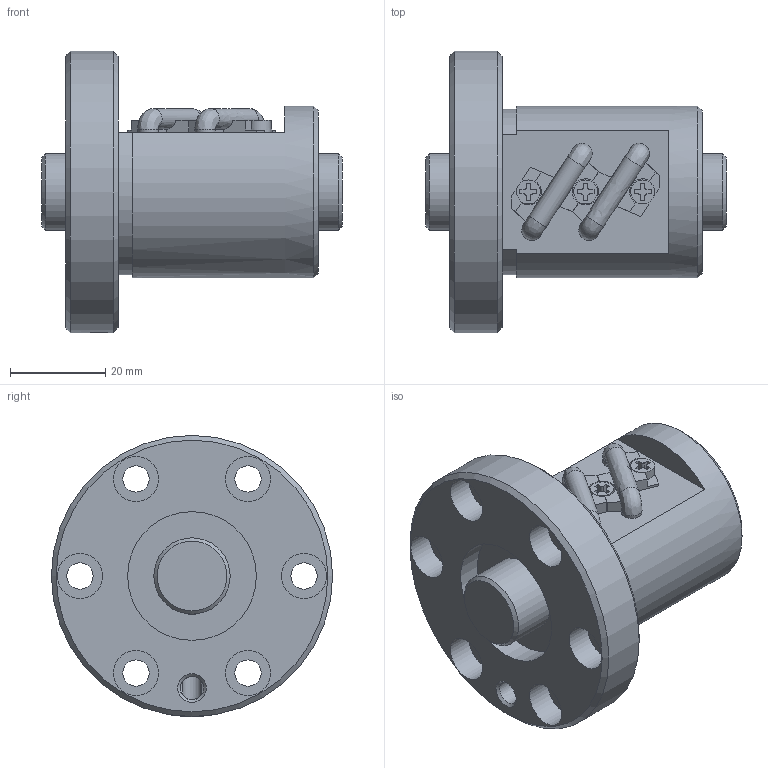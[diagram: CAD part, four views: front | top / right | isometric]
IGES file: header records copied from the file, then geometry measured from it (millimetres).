
Start section: Data from Parasolid IGES Translator 26.0.171, Copyright(c) 2006 Siemens PLM Software. All Rights Reserved.
Global section: file name: BNF1604V-5RRG1+63LC0_000_rev.igs; native system: By Siemens PLM Incorporated; preprocessor: XPlus GENERIC/IGES 26.0.171; author: Noname; organization: Noname; date: 20240806.072715; units: millimetre
Bounding box: 63 x 59 x 59 mm (x, y, z)
Surface area: 20595.5 mm2 (no closed solid volume)
Topology: 0 solids, 0 shells, 179 faces, 942 edges, 903 vertices
Faces by surface type: extrusion 108, revolution 71
